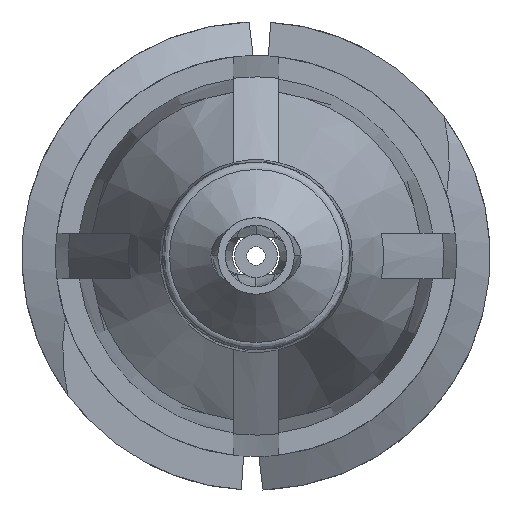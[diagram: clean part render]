
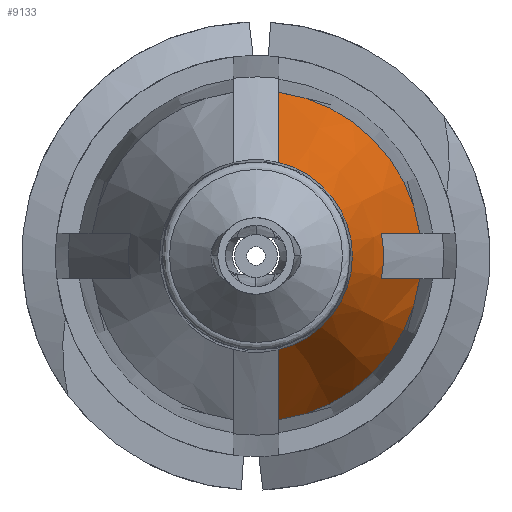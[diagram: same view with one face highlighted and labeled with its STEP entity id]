
A CAD part, front view. The second image highlights one B-rep face of the part: STEP entity #9133.
In plain terms, the highlighted conical face has half-angle 20 degrees and reference radius 2.745 mm.
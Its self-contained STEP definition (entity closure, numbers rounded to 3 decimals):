
#476 = CONICAL_SURFACE ( 'NONE', #2003, 2.745, 0.349 ) ;
#530 = DIRECTION ( 'NONE',  ( 0., 1., 0. ) ) ;
#866 = EDGE_CURVE ( 'NONE', #1168, #8176, #9036, .T. ) ;
#1010 = CIRCLE ( 'NONE', #10403, 2.117 ) ;
#1168 = VERTEX_POINT ( 'NONE', #7225 ) ;
#1472 = ORIENTED_EDGE ( 'NONE', *, *, #10310, .F. ) ;
#1750 = ORIENTED_EDGE ( 'NONE', *, *, #12562, .F. ) ;
#2003 = AXIS2_PLACEMENT_3D ( 'NONE', #11008, #530, #5798 ) ;
#2032 = DIRECTION ( 'NONE',  ( 0., 0., 1. ) ) ;
#2098 = CARTESIAN_POINT ( 'NONE',  ( 0., -13.458, 0. ) ) ;
#2160 = CIRCLE ( 'NONE', #10472, 2.745 ) ;
#2202 = VERTEX_POINT ( 'NONE', #2274 ) ;
#2274 = CARTESIAN_POINT ( 'NONE',  ( 0.381, -10.312, 2.719 ) ) ;
#2327 = B_SPLINE_CURVE_WITH_KNOTS ( 'NONE', 3,
 ( #9315, #13504, #12481, #3082 ),
 .UNSPECIFIED., .F., .F.,
 ( 4, 4 ),
 ( 0.003, 0.006 ),
 .UNSPECIFIED. ) ;
#2696 = VERTEX_POINT ( 'NONE', #10539 ) ;
#2817 = CARTESIAN_POINT ( 'NONE',  ( 0., -12.038, 0. ) ) ;
#3082 = CARTESIAN_POINT ( 'NONE',  ( 0.381, -10.312, 2.719 ) ) ;
#3687 = CARTESIAN_POINT ( 'NONE',  ( 0.381, -12.411, -1.947 ) ) ;
#3688 = ORIENTED_EDGE ( 'NONE', *, *, #5043, .F. ) ;
#3969 = CIRCLE ( 'NONE', #7486, 2.745 ) ;
#4211 = DIRECTION ( 'NONE',  ( 0., 1., 0. ) ) ;
#4767 = VERTEX_POINT ( 'NONE', #9669 ) ;
#4862 = EDGE_CURVE ( 'NONE', #9996, #4767, #12977, .T. ) ;
#5043 = EDGE_CURVE ( 'NONE', #4767, #2696, #1010, .T. ) ;
#5114 = CARTESIAN_POINT ( 'NONE',  ( 2.719, -10.312, 0.381 ) ) ;
#5362 = ORIENTED_EDGE ( 'NONE', *, *, #11882, .T. ) ;
#5384 = CARTESIAN_POINT ( 'NONE',  ( 2.719, -10.312, -0.381 ) ) ;
#5519 = CARTESIAN_POINT ( 'NONE',  ( 2.507, -10.888, -0.381 ) ) ;
#5653 = AXIS2_PLACEMENT_3D ( 'NONE', #2098, #4211, #2032 ) ;
#5798 = DIRECTION ( 'NONE',  ( 0., 0., 1. ) ) ;
#6128 = CARTESIAN_POINT ( 'NONE',  ( 0., -10.312, 0. ) ) ;
#6139 = DIRECTION ( 'NONE',  ( 0., 0., 1. ) ) ;
#6775 = ORIENTED_EDGE ( 'NONE', *, *, #866, .T. ) ;
#6917 = DIRECTION ( 'NONE',  ( 0., 0., 1. ) ) ;
#6992 = ORIENTED_EDGE ( 'NONE', *, *, #4862, .F. ) ;
#7225 = CARTESIAN_POINT ( 'NONE',  ( 0.381, -13.458, -1.554 ) ) ;
#7412 = CIRCLE ( 'NONE', #5653, 1.6 ) ;
#7486 = AXIS2_PLACEMENT_3D ( 'NONE', #8404, #12588, #6139 ) ;
#7548 = CARTESIAN_POINT ( 'NONE',  ( 2.082, -12.038, 0.381 ) ) ;
#7704 = CARTESIAN_POINT ( 'NONE',  ( 0.381, -10.312, -2.719 ) ) ;
#7944 = DIRECTION ( 'NONE',  ( 0., 1., 0. ) ) ;
#7949 = CARTESIAN_POINT ( 'NONE',  ( 0.381, -11.362, -2.333 ) ) ;
#8067 = EDGE_CURVE ( 'NONE', #2696, #9588, #12131, .T. ) ;
#8176 = VERTEX_POINT ( 'NONE', #7704 ) ;
#8347 = CARTESIAN_POINT ( 'NONE',  ( 0.381, -13.458, 1.554 ) ) ;
#8404 = CARTESIAN_POINT ( 'NONE',  ( 0., -10.312, 0. ) ) ;
#8580 = CARTESIAN_POINT ( 'NONE',  ( 2.507, -10.888, 0.381 ) ) ;
#8787 = ORIENTED_EDGE ( 'NONE', *, *, #9617, .F. ) ;
#8793 = CARTESIAN_POINT ( 'NONE',  ( 2.295, -11.463, -0.381 ) ) ;
#8830 = CARTESIAN_POINT ( 'NONE',  ( 0.381, -10.312, -2.719 ) ) ;
#8885 = VERTEX_POINT ( 'NONE', #8347 ) ;
#9033 = CARTESIAN_POINT ( 'NONE',  ( 0.381, -13.458, -1.554 ) ) ;
#9036 = B_SPLINE_CURVE_WITH_KNOTS ( 'NONE', 3,
 ( #9033, #3687, #7949, #8830 ),
 .UNSPECIFIED., .F., .F.,
 ( 4, 4 ),
 ( 0.003, 0.006 ),
 .UNSPECIFIED. ) ;
#9133 = ADVANCED_FACE ( 'NONE', ( #12244 ), #476, .T. ) ;
#9315 = CARTESIAN_POINT ( 'NONE',  ( 0.381, -13.458, 1.554 ) ) ;
#9588 = VERTEX_POINT ( 'NONE', #5384 ) ;
#9603 = CARTESIAN_POINT ( 'NONE',  ( 2.719, -10.312, 0.381 ) ) ;
#9617 = EDGE_CURVE ( 'NONE', #2202, #9996, #3969, .T. ) ;
#9629 = CARTESIAN_POINT ( 'NONE',  ( 2.082, -12.038, -0.381 ) ) ;
#9669 = CARTESIAN_POINT ( 'NONE',  ( 2.082, -12.038, 0.381 ) ) ;
#9996 = VERTEX_POINT ( 'NONE', #5114 ) ;
#10310 = EDGE_CURVE ( 'NONE', #9588, #8176, #2160, .T. ) ;
#10355 = EDGE_LOOP ( 'NONE', ( #1750, #5362, #6775, #1472, #10747, #3688, #6992, #8787 ) ) ;
#10403 = AXIS2_PLACEMENT_3D ( 'NONE', #2817, #13373, #12138 ) ;
#10472 = AXIS2_PLACEMENT_3D ( 'NONE', #6128, #7944, #6917 ) ;
#10539 = CARTESIAN_POINT ( 'NONE',  ( 2.082, -12.038, -0.381 ) ) ;
#10747 = ORIENTED_EDGE ( 'NONE', *, *, #8067, .F. ) ;
#11008 = CARTESIAN_POINT ( 'NONE',  ( 0., -10.312, 0. ) ) ;
#11882 = EDGE_CURVE ( 'NONE', #8885, #1168, #7412, .T. ) ;
#12131 = B_SPLINE_CURVE_WITH_KNOTS ( 'NONE', 3,
 ( #9629, #8793, #5519, #12988 ),
 .UNSPECIFIED., .F., .F.,
 ( 4, 4 ),
 ( 0.002, 0.004 ),
 .UNSPECIFIED. ) ;
#12138 = DIRECTION ( 'NONE',  ( 0., 0., -1. ) ) ;
#12244 = FACE_OUTER_BOUND ( 'NONE', #10355, .T. ) ;
#12481 = CARTESIAN_POINT ( 'NONE',  ( 0.381, -11.362, 2.333 ) ) ;
#12562 = EDGE_CURVE ( 'NONE', #8885, #2202, #2327, .T. ) ;
#12588 = DIRECTION ( 'NONE',  ( 0., 1., 0. ) ) ;
#12769 = CARTESIAN_POINT ( 'NONE',  ( 2.295, -11.463, 0.381 ) ) ;
#12977 = B_SPLINE_CURVE_WITH_KNOTS ( 'NONE', 3,
 ( #9603, #8580, #12769, #7548 ),
 .UNSPECIFIED., .F., .F.,
 ( 4, 4 ),
 ( 0.003, 0.005 ),
 .UNSPECIFIED. ) ;
#12988 = CARTESIAN_POINT ( 'NONE',  ( 2.719, -10.312, -0.381 ) ) ;
#13373 = DIRECTION ( 'NONE',  ( 0., 1., 0. ) ) ;
#13504 = CARTESIAN_POINT ( 'NONE',  ( 0.381, -12.411, 1.947 ) ) ;
